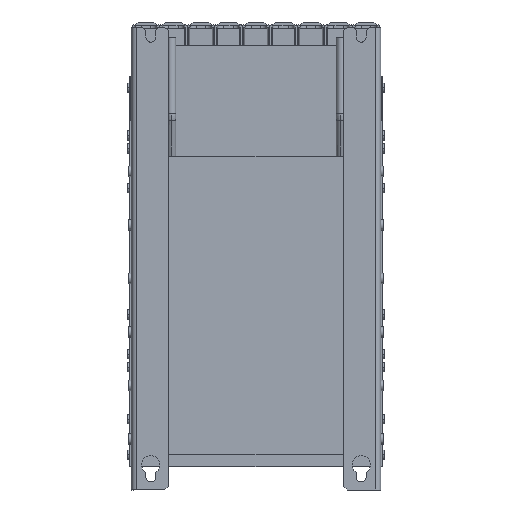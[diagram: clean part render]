
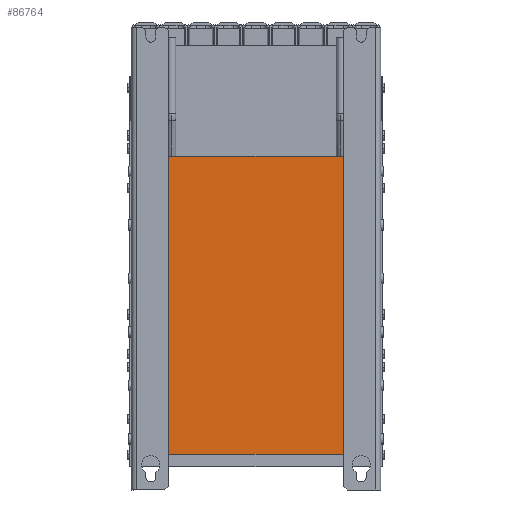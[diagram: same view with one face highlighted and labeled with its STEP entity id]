
A CAD part, front view. The second image highlights one B-rep face of the part: STEP entity #86764.
In plain terms, the highlighted planar face has unit normal (0, -1, 0).
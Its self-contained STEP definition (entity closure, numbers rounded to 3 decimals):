
#591 = VECTOR ( 'NONE', #4236, 1000. ) ;
#1055 = DIRECTION ( 'NONE',  ( 0., 0., -1. ) ) ;
#4236 = DIRECTION ( 'NONE',  ( 0., 0., 1. ) ) ;
#5464 = CARTESIAN_POINT ( 'NONE',  ( 163., -25., 402. ) ) ;
#9412 = CARTESIAN_POINT ( 'NONE',  ( 160., -25., 402. ) ) ;
#11388 = FACE_OUTER_BOUND ( 'NONE', #70420, .T. ) ;
#15524 = AXIS2_PLACEMENT_3D ( 'NONE', #95380, #48689, #27310 ) ;
#18448 = VERTEX_POINT ( 'NONE', #9412 ) ;
#27310 = DIRECTION ( 'NONE',  ( 0., 0., -1. ) ) ;
#28778 = VERTEX_POINT ( 'NONE', #38885 ) ;
#36840 = DIRECTION ( 'NONE',  ( -1., 0., 0. ) ) ;
#37244 = ORIENTED_EDGE ( 'NONE', *, *, #91978, .T. ) ;
#38885 = CARTESIAN_POINT ( 'NONE',  ( 160., -25., 12. ) ) ;
#39389 = LINE ( 'NONE', #76647, #75154 ) ;
#41751 = PLANE ( 'NONE',  #15524 ) ;
#42813 = LINE ( 'NONE', #5464, #51071 ) ;
#45657 = CARTESIAN_POINT ( 'NONE',  ( -160., -25., 402. ) ) ;
#48689 = DIRECTION ( 'NONE',  ( 0., -1., 0. ) ) ;
#51071 = VECTOR ( 'NONE', #65144, 1000. ) ;
#51271 = LINE ( 'NONE', #90458, #65155 ) ;
#54338 = ORIENTED_EDGE ( 'NONE', *, *, #72356, .T. ) ;
#56979 = CARTESIAN_POINT ( 'NONE',  ( 160., -25., 12. ) ) ;
#58972 = CARTESIAN_POINT ( 'NONE',  ( -160., -25., 12. ) ) ;
#65144 = DIRECTION ( 'NONE',  ( -1., 0., 0. ) ) ;
#65155 = VECTOR ( 'NONE', #36840, 1000. ) ;
#67895 = VERTEX_POINT ( 'NONE', #45657 ) ;
#70420 = EDGE_LOOP ( 'NONE', ( #96609, #82426, #54338, #37244 ) ) ;
#72356 = EDGE_CURVE ( 'NONE', #28778, #18448, #89594, .T. ) ;
#75154 = VECTOR ( 'NONE', #1055, 1000. ) ;
#76647 = CARTESIAN_POINT ( 'NONE',  ( -160., -25., 12. ) ) ;
#80575 = EDGE_CURVE ( 'NONE', #67895, #84665, #39389, .T. ) ;
#82426 = ORIENTED_EDGE ( 'NONE', *, *, #88037, .F. ) ;
#84665 = VERTEX_POINT ( 'NONE', #58972 ) ;
#86764 = ADVANCED_FACE ( 'NONE', ( #11388 ), #41751, .T. ) ;
#88037 = EDGE_CURVE ( 'NONE', #28778, #84665, #51271, .T. ) ;
#89594 = LINE ( 'NONE', #56979, #591 ) ;
#90458 = CARTESIAN_POINT ( 'NONE',  ( 163., -25., 12. ) ) ;
#91978 = EDGE_CURVE ( 'NONE', #18448, #67895, #42813, .T. ) ;
#95380 = CARTESIAN_POINT ( 'NONE',  ( 163., -25., 728.957 ) ) ;
#96609 = ORIENTED_EDGE ( 'NONE', *, *, #80575, .T. ) ;
